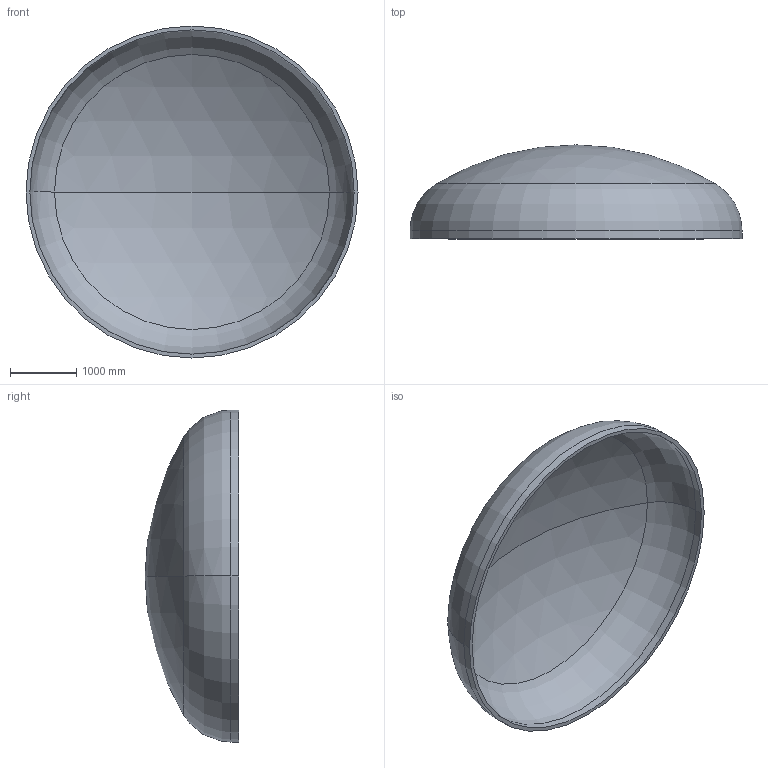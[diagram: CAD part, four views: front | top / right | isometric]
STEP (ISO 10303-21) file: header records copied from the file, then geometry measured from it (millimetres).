
FILE_DESCRIPTION (( 'STEP AP203' ), '1' );
FILE_NAME ('DIN 28013 Korbbogenform_-_Boden DIN 28013 - 5000 x 120 - I - s=58.step', '2016-07-02T00:38:45', ( '' ), ( '' ), 'SwSTEP 2.0', 'SolidWorks 2013', '' );
FILE_SCHEMA (( 'CONFIG_CONTROL_DESIGN' ));
Length unit declared in the file: millimetre
Products named in the file (1): DIN 28013 Korbbogenform_-_Boden DIN 28013 - 5000 x 120 - I - s=58
Bounding box: 5000 x 1414.43 x 5000 mm (x, y, z)
Volume: 1661310449.2 mm3; surface area: 58194084.9 mm2
Topology: 1 solids, 1 shells, 13 faces, 24 edges, 14 vertices
Faces by surface type: torus 4, cylinder 4, sphere 4, plane 1
Entity records: 407 total; most frequent: DIRECTION 72, CARTESIAN_POINT 52, ORIENTED_EDGE 48, AXIS2_PLACEMENT_3D 34, EDGE_CURVE 24, CIRCLE 20, VERTEX_POINT 14, EDGE_LOOP 14
